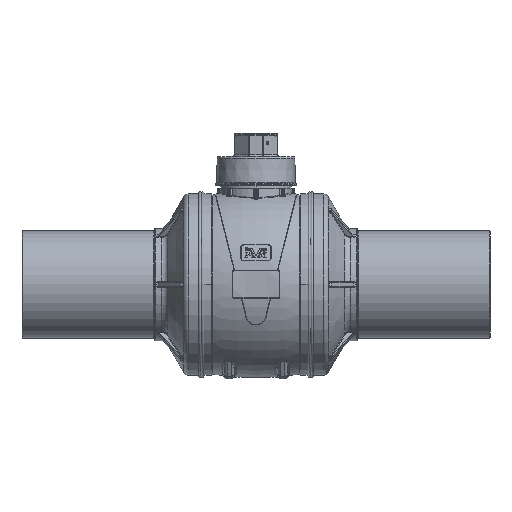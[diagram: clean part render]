
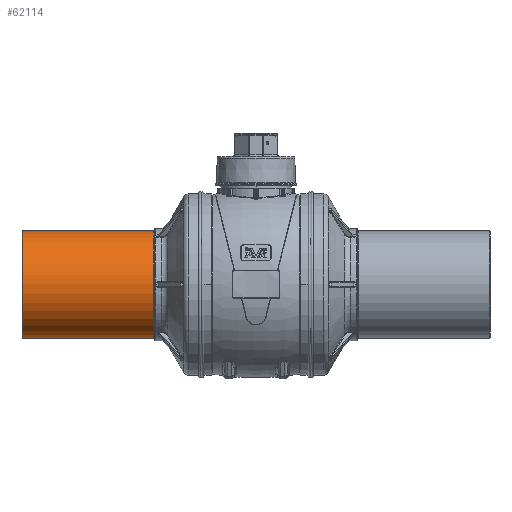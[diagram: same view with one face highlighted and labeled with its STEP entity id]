
A CAD part, top view. The second image highlights one B-rep face of the part: STEP entity #62114.
In plain terms, the highlighted cylindrical face has radius 80 mm (diameter 160 mm), a partial arc.
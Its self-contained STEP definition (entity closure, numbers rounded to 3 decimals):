
#16767 = ORIENTED_EDGE ( 'NONE', *, *, #72849, .F. ) ;
#16768 = ORIENTED_EDGE ( 'NONE', *, *, #70390, .T. ) ;
#16769 = ORIENTED_EDGE ( 'NONE', *, *, #72841, .T. ) ;
#16770 = ORIENTED_EDGE ( 'NONE', *, *, #70392, .T. ) ;
#16771 = ORIENTED_EDGE ( 'NONE', *, *, #72645, .T. ) ;
#39422 = DIRECTION ( 'NONE',  ( 0., -1., 0. ) ) ;
#39424 = DIRECTION ( 'NONE',  ( 1., 0., 0. ) ) ;
#39426 = CARTESIAN_POINT ( 'NONE',  ( -90.2, 0., 0. ) ) ;
#40964 = FACE_OUTER_BOUND ( 'NONE', #53014, .T. ) ;
#40975 = CYLINDRICAL_SURFACE ( 'NONE', #87103, 80. ) ;
#41243 = CIRCLE ( 'NONE', #87330, 80. ) ;
#41247 = CIRCLE ( 'NONE', #87327, 80. ) ;
#45236 = CARTESIAN_POINT ( 'NONE',  ( -347.608, 0., 0. ) ) ;
#45239 = DIRECTION ( 'NONE',  ( 1., 0., 0. ) ) ;
#45242 = DIRECTION ( 'NONE',  ( 0., 1., 0. ) ) ;
#45249 = CARTESIAN_POINT ( 'NONE',  ( -152.108, 0., 0. ) ) ;
#45252 = DIRECTION ( 'NONE',  ( -1., 0., 0. ) ) ;
#45255 = DIRECTION ( 'NONE',  ( 0., 0., -1. ) ) ;
#53014 = EDGE_LOOP ( 'NONE', ( #16767, #16768, #16769, #16770, #16771 ) ) ;
#62114 = ADVANCED_FACE ( 'NONE', ( #40964 ), #40975, .T. ) ;
#62960 = AXIS2_PLACEMENT_3D ( 'NONE', #69207, #69208, #69209 ) ;
#67383 = CIRCLE ( 'NONE', #62960, 80. ) ;
#67587 = LINE ( 'NONE', #69977, #67589 ) ;
#67589 = VECTOR ( 'NONE', #69970, 1000. ) ;
#67598 = LINE ( 'NONE', #69994, #67600 ) ;
#67600 = VECTOR ( 'NONE', #70008, 1000. ) ;
#69207 = CARTESIAN_POINT ( 'NONE',  ( -152.108, 0., 0. ) ) ;
#69208 = DIRECTION ( 'NONE',  ( -1., 0., 0. ) ) ;
#69209 = DIRECTION ( 'NONE',  ( 0., 0., -1. ) ) ;
#69970 = DIRECTION ( 'NONE',  ( 1., 0., 0. ) ) ;
#69977 = CARTESIAN_POINT ( 'NONE',  ( -90.2, -80., 0. ) ) ;
#69994 = CARTESIAN_POINT ( 'NONE',  ( -90.2, 80., 0. ) ) ;
#70008 = DIRECTION ( 'NONE',  ( 1., 0., 0. ) ) ;
#70390 = EDGE_CURVE ( 'NONE', #79970, #79969, #41247, .T. ) ;
#70392 = EDGE_CURVE ( 'NONE', #80002, #79992, #41243, .T. ) ;
#72645 = EDGE_CURVE ( 'NONE', #79992, #79995, #67383, .T. ) ;
#72841 = EDGE_CURVE ( 'NONE', #79969, #80002, #67587, .T. ) ;
#72849 = EDGE_CURVE ( 'NONE', #79970, #79995, #67598, .T. ) ;
#79969 = VERTEX_POINT ( 'NONE', #80239 ) ;
#79970 = VERTEX_POINT ( 'NONE', #80240 ) ;
#79992 = VERTEX_POINT ( 'NONE', #80262 ) ;
#79995 = VERTEX_POINT ( 'NONE', #80265 ) ;
#80002 = VERTEX_POINT ( 'NONE', #80272 ) ;
#80239 = CARTESIAN_POINT ( 'NONE',  ( -347.608, -80., 0. ) ) ;
#80240 = CARTESIAN_POINT ( 'NONE',  ( -347.608, 80., 0. ) ) ;
#80262 = CARTESIAN_POINT ( 'NONE',  ( -152.108, 0., 80. ) ) ;
#80265 = CARTESIAN_POINT ( 'NONE',  ( -152.108, 80., 0. ) ) ;
#80272 = CARTESIAN_POINT ( 'NONE',  ( -152.108, -80., 0. ) ) ;
#87103 = AXIS2_PLACEMENT_3D ( 'NONE', #39426, #39424, #39422 ) ;
#87327 = AXIS2_PLACEMENT_3D ( 'NONE', #45236, #45239, #45242 ) ;
#87330 = AXIS2_PLACEMENT_3D ( 'NONE', #45249, #45252, #45255 ) ;
